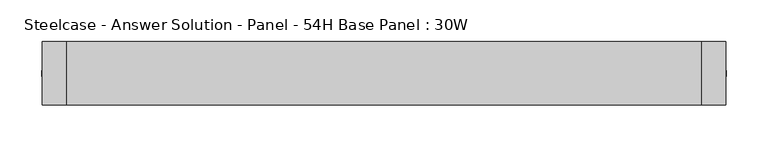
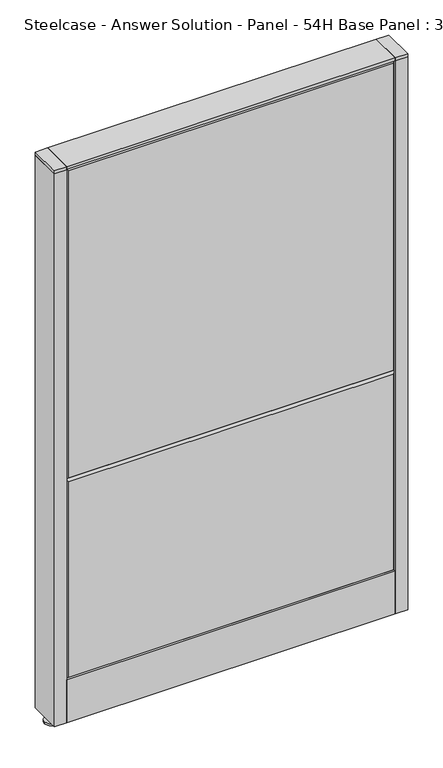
"""IFC4 building model written with IfcOpenShell, lengths in millimetres: furniture geometry, Steelcase - Answer Solution - Panel - 54H Base Panel : 30W."""

from ifc_helpers import new_model, si_unit, point, frame, frame_2d, origin, place, context, project, spatial, polyline, circle_curve, trimmed, segment, composite_curve, outline, extrude, faceted_brep, source, transform, mapped, element, save


def steelcase_answer_solution_panel_54h_base_panel_30w_48aa843c(model_context):
    return source(origin(), model_context, "Body", "SolidModel", [
        extrude(outline(composite_curve([segment(trimmed(circle_curve(frame_2d((395.224, 0.0320214)), 5.08), [point((400.304, 0.0320214))], [point((390.144, 0.0320214))], False, "CARTESIAN"), True, "CONTINUOUS"), segment(trimmed(circle_curve(frame_2d((395.224, 0.0320214)), 5.08), [point((390.144, 0.0320214))], [point((400.304, 0.0320214))], False, "CARTESIAN"), True, "CONTINUOUS")], self_intersect=False)), frame((0.0, 0.0, 5.0799671), z_axis=(0.0, 0.0, 1.0), x_axis=(1.0, 0.0, 0.0)), (0.0, 0.0, 1.0), 10.414),
        extrude(outline(composite_curve([segment(trimmed(circle_curve(frame_2d((395.224, 0.0320214)), 15.24), [point((410.464, 0.0320214))], [point((379.984, 0.0320214))], False, "CARTESIAN"), True, "CONTINUOUS"), segment(trimmed(circle_curve(frame_2d((395.224, 0.0320214)), 15.24), [point((379.984, 0.0320214))], [point((410.464, 0.0320214))], False, "CARTESIAN"), True, "CONTINUOUS")], self_intersect=False)), frame((0.0, 0.0, -3.29e-05), z_axis=(0.0, 0.0, 1.0), x_axis=(1.0, 0.0, 0.0)), (0.0, 0.0, 1.0), 5.08),
        extrude(outline(polyline([(409.575, 38.1320408), (409.575, -38.0679592), (381.0, -38.0679592), (381.0, 38.1320408), (409.575, 38.1320408)])), frame((0.0, 0.0, 1370.6348), z_axis=(0.0, 0.0, 1.0), x_axis=(1.0, 0.0, 0.0)), (0.0, 0.0, 1.0), 7.3151671),
        extrude(outline(polyline([(409.575, 38.1320408), (409.575, -38.0679592), (381.0, -38.0679592), (381.0, 38.1320408), (409.575, 38.1320408)])), frame((0.0, 0.0, 15.4939671), z_axis=(0.0, 0.0, 1.0), x_axis=(1.0, 0.0, 0.0)), (0.0, 0.0, 1.0), 1355.1408329),
        extrude(outline(composite_curve([segment(trimmed(circle_curve(frame_2d((-395.224, 0.0320214)), 5.08), [point((-400.304, 0.0320214))], [point((-390.144, 0.0320214))], False, "CARTESIAN"), True, "CONTINUOUS"), segment(trimmed(circle_curve(frame_2d((-395.224, 0.0320214)), 5.08), [point((-390.144, 0.0320214))], [point((-400.304, 0.0320214))], False, "CARTESIAN"), True, "CONTINUOUS")], self_intersect=False)), frame((0.0, 0.0, 5.0799671), z_axis=(0.0, 0.0, 1.0), x_axis=(1.0, 0.0, 0.0)), (0.0, 0.0, 1.0), 10.414),
        extrude(outline(composite_curve([segment(trimmed(circle_curve(frame_2d((-395.224, 0.0320214)), 15.24), [point((-410.464, 0.0320214))], [point((-379.984, 0.0320214))], False, "CARTESIAN"), True, "CONTINUOUS"), segment(trimmed(circle_curve(frame_2d((-395.224, 0.0320214)), 15.24), [point((-379.984, 0.0320214))], [point((-410.464, 0.0320214))], False, "CARTESIAN"), True, "CONTINUOUS")], self_intersect=False)), frame((0.0, 0.0, -3.29e-05), z_axis=(0.0, 0.0, 1.0), x_axis=(1.0, 0.0, 0.0)), (0.0, 0.0, 1.0), 5.08),
        extrude(outline(polyline([(-409.575, 38.1320408), (-381.0, 38.1320408), (-381.0, -38.0679592), (-409.575, -38.0679592), (-409.575, 38.1320408)])), frame((0.0, 0.0, 1370.6348), z_axis=(0.0, 0.0, 1.0), x_axis=(1.0, 0.0, 0.0)), (0.0, 0.0, 1.0), 7.3151671),
        extrude(outline(polyline([(-409.575, 38.1320408), (-381.0, 38.1320408), (-381.0, -38.0679592), (-409.575, -38.0679592), (-409.575, 38.1320408)])), frame((0.0, 0.0, 15.4939671), z_axis=(0.0, 0.0, 1.0), x_axis=(1.0, 0.0, 0.0)), (0.0, 0.0, 1.0), 1355.1408329),
        faceted_brep([(-376.174, 38.1635011, 1366.774), (376.174, 38.1635011, 1366.774), (376.174, 38.1635011, 614.426), (-376.174, 38.1635011, 614.426), (-381.0, 33.3375011, 1371.6), (-381.0, 33.3375011, 609.6), (381.0, 33.3375011, 609.6), (381.0, 33.3375011, 1371.6)], [[[0, 1, 2, 3]], [[4, 5, 6, 7]], [[4, 7, 1, 0]], [[7, 6, 2, 1]], [[6, 5, 3, 2]], [[5, 4, 0, 3]]]),
        faceted_brep([(-376.174, 38.1635011, 604.774), (376.174, 38.1635011, 604.774), (376.174, 38.1635011, 125.476), (-376.174, 38.1635011, 125.476), (-381.0, 33.3375011, 609.6), (-381.0, 33.3375011, 120.65), (381.0, 33.3375011, 120.65), (381.0, 33.3375011, 609.6)], [[[0, 1, 2, 3]], [[4, 5, 6, 7]], [[4, 7, 1, 0]], [[7, 6, 2, 1]], [[6, 5, 3, 2]], [[5, 4, 0, 3]]]),
        faceted_brep([(376.174, -38.1635011, 1366.774), (-376.174, -38.1635011, 1366.774), (-376.174, -38.1635011, 614.426), (376.174, -38.1635011, 614.426), (381.0, -33.3375011, 1371.6), (381.0, -33.3375011, 609.6), (-381.0, -33.3375011, 609.6), (-381.0, -33.3375011, 1371.6)], [[[0, 1, 2, 3]], [[4, 5, 6, 7]], [[4, 7, 1, 0]], [[7, 6, 2, 1]], [[6, 5, 3, 2]], [[5, 4, 0, 3]]]),
        faceted_brep([(376.174, -38.1635011, 604.774), (-376.174, -38.1635011, 604.774), (-376.174, -38.1635011, 125.476), (376.174, -38.1635011, 125.476), (381.0, -33.3375011, 609.6), (381.0, -33.3375011, 120.65), (-381.0, -33.3375011, 120.65), (-381.0, -33.3375011, 609.6)], [[[0, 1, 2, 3]], [[4, 5, 6, 7]], [[4, 7, 1, 0]], [[7, 6, 2, 1]], [[6, 5, 3, 2]], [[5, 4, 0, 3]]]),
        extrude(outline(polyline([(381.0, 38.1000194), (381.0, -38.1000194), (-381.0, -38.1000194), (-381.0, 38.1000194), (381.0, 38.1000194)])), frame((0.0, 0.0, 1371.6), z_axis=(0.0, 0.0, 1.0), x_axis=(1.0, 0.0, 0.0)), (0.0, 0.0, 1.0), 6.35),
        extrude(outline(polyline([(25.4000011, 119.8575157), (25.4000011, 120.65), (38.1000194, 120.65), (38.1000194, 15.494), (37.3075215, 15.494), (37.3075215, 119.8575157), (25.4000011, 119.8575157)])), frame((-381.0, 0.0, 0.0), z_axis=(1.0, 0.0, 0.0), x_axis=(0.0, 1.0, 0.0)), (0.0, 0.0, 1.0), 762.0),
        extrude(outline(polyline([(-25.4000011, 119.8575157), (-37.3075215, 119.8575157), (-37.3075215, 15.494), (-38.1000194, 15.494), (-38.1000194, 120.65), (-25.4000011, 120.65), (-25.4000011, 119.8575157)])), frame((-381.0, 0.0, 0.0), z_axis=(1.0, 0.0, 0.0), x_axis=(0.0, 1.0, 0.0)), (0.0, 0.0, 1.0), 762.0),
    ])


if __name__ == "__main__":
    model = new_model("IFC4")
    model_context = context("Model", 3, world=origin())
    ifc_project = project(units=[si_unit("LENGTHUNIT", "METRE", prefix="MILLI")], contexts=[model_context])
    site = spatial("IfcSite", under=ifc_project)
    building = spatial("IfcBuilding", under=site)
    placement = place(None, origin())
    steelcase_answer_solution_panel_54h_base_panel_30w_shape = steelcase_answer_solution_panel_54h_base_panel_30w_48aa843c(model_context)
    element("IfcFurniture", 1, ObjectType="Steelcase - Answer Solution - Panel - 54H Base Panel : 30W", at=placement, inside=building, context=model_context, shape_type="MappedRepresentation", body=[
        mapped(steelcase_answer_solution_panel_54h_base_panel_30w_shape, transform((0.0, 0.0, 0.0), x_axis=(1.0, 0.0, 0.0), y_axis=(0.0, 1.0, 0.0), z_axis=(0.0, 0.0, 1.0))),
    ])
    save(model, "model.ifc")
